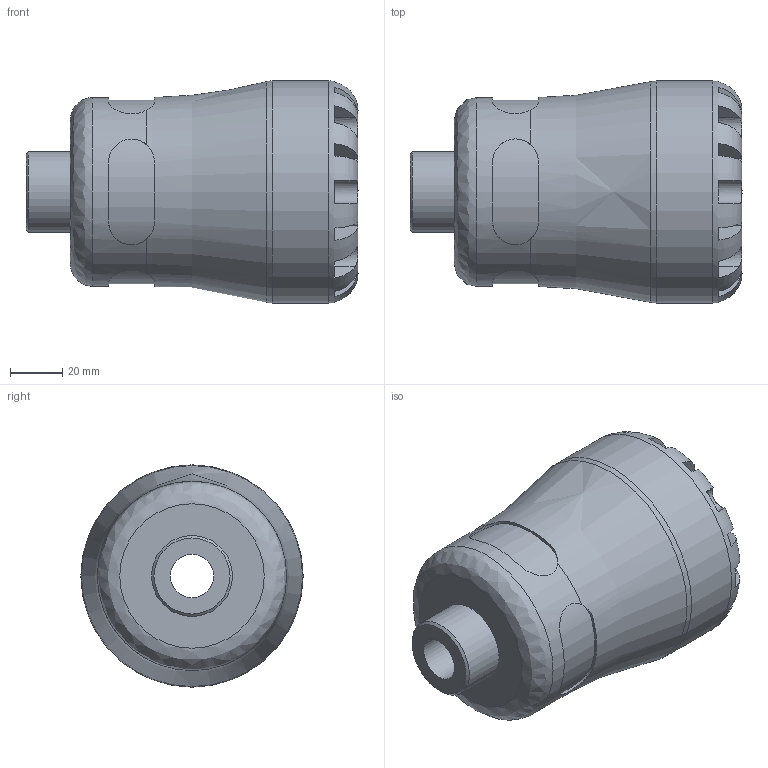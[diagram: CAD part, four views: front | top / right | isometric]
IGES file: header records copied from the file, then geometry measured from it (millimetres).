
Global section: file name: 107200050010_197200050010.ipt; native system: Autodesk Inventor 2015; preprocessor: unknown; author: KIM; date: 20170122.104941; units: millimetre
Bounding box: 127 x 85 x 85 mm (x, y, z)
Volume: 352360.5 mm3; surface area: 53709.1 mm2
Topology: 1 solids, 1 shells, 99 faces, 264 edges, 169 vertices
Faces by surface type: plane 60, revolution 23, cylinder 15, cone 1
Full cylindrical faces by diameter (mm): 30.931 x1, 72.25 x1, 85 x1
